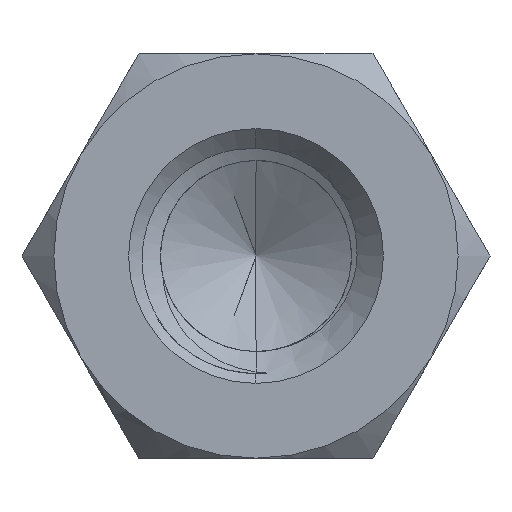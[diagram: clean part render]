
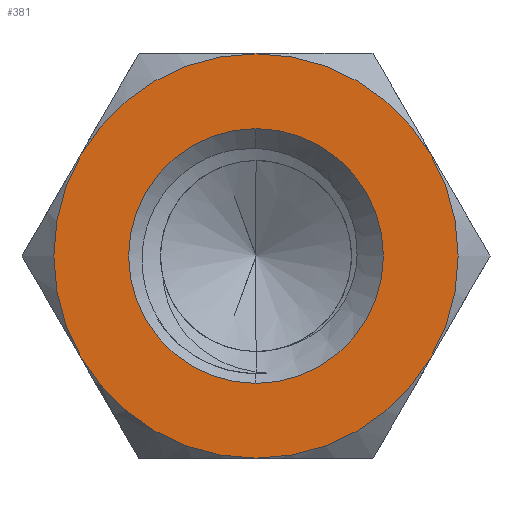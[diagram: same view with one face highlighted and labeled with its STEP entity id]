
A CAD part, front view. The second image highlights one B-rep face of the part: STEP entity #381.
In plain terms, the highlighted planar face has unit normal (0, -1, 0).
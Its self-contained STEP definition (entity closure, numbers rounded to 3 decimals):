
#165 = CARTESIAN_POINT ( 'NONE',  ( 0., 0., -3.491 ) ) ;
#175 = EDGE_LOOP ( 'NONE', ( #465, #1107 ) ) ;
#252 = DIRECTION ( 'NONE',  ( 0., 0., -1. ) ) ;
#308 = DIRECTION ( 'NONE',  ( 0., 0., 1. ) ) ;
#381 = ADVANCED_FACE ( 'NONE', ( #1863, #2071 ), #1674, .F. ) ;
#412 = CARTESIAN_POINT ( 'NONE',  ( 0., 0., 2.2 ) ) ;
#442 = CARTESIAN_POINT ( 'NONE',  ( 0., 0., 0. ) ) ;
#465 = ORIENTED_EDGE ( 'NONE', *, *, #1612, .T. ) ;
#474 = CIRCLE ( 'NONE', #1142, 3.491 ) ;
#507 = VERTEX_POINT ( 'NONE', #591 ) ;
#536 = DIRECTION ( 'NONE',  ( 0., 1., 0. ) ) ;
#581 = VERTEX_POINT ( 'NONE', #659 ) ;
#589 = AXIS2_PLACEMENT_3D ( 'NONE', #2112, #2067, #1904 ) ;
#591 = CARTESIAN_POINT ( 'NONE',  ( 0., 0., 3.491 ) ) ;
#612 = DIRECTION ( 'NONE',  ( 0., -1., 0. ) ) ;
#659 = CARTESIAN_POINT ( 'NONE',  ( 0., 0., -2.2 ) ) ;
#665 = AXIS2_PLACEMENT_3D ( 'NONE', #1886, #536, #1296 ) ;
#746 = CIRCLE ( 'NONE', #946, 2.2 ) ;
#757 = EDGE_CURVE ( 'NONE', #581, #1140, #945, .T. ) ;
#808 = ORIENTED_EDGE ( 'NONE', *, *, #757, .T. ) ;
#945 = CIRCLE ( 'NONE', #589, 2.2 ) ;
#946 = AXIS2_PLACEMENT_3D ( 'NONE', #1064, #1459, #308 ) ;
#1064 = CARTESIAN_POINT ( 'NONE',  ( 0., 0., 0. ) ) ;
#1107 = ORIENTED_EDGE ( 'NONE', *, *, #1723, .T. ) ;
#1140 = VERTEX_POINT ( 'NONE', #412 ) ;
#1142 = AXIS2_PLACEMENT_3D ( 'NONE', #1529, #2291, #2114 ) ;
#1295 = EDGE_CURVE ( 'NONE', #1140, #581, #746, .T. ) ;
#1296 = DIRECTION ( 'NONE',  ( 0., 0., 1. ) ) ;
#1422 = ORIENTED_EDGE ( 'NONE', *, *, #1295, .T. ) ;
#1459 = DIRECTION ( 'NONE',  ( 0., 1., 0. ) ) ;
#1474 = CIRCLE ( 'NONE', #1586, 3.491 ) ;
#1529 = CARTESIAN_POINT ( 'NONE',  ( 0., 0., 0. ) ) ;
#1586 = AXIS2_PLACEMENT_3D ( 'NONE', #442, #612, #252 ) ;
#1612 = EDGE_CURVE ( 'NONE', #507, #2232, #1474, .T. ) ;
#1662 = EDGE_LOOP ( 'NONE', ( #808, #1422 ) ) ;
#1674 = PLANE ( 'NONE',  #665 ) ;
#1723 = EDGE_CURVE ( 'NONE', #2232, #507, #474, .T. ) ;
#1863 = FACE_BOUND ( 'NONE', #1662, .T. ) ;
#1886 = CARTESIAN_POINT ( 'NONE',  ( 0., 0., 0. ) ) ;
#1904 = DIRECTION ( 'NONE',  ( 0., 0., 1. ) ) ;
#2067 = DIRECTION ( 'NONE',  ( 0., 1., 0. ) ) ;
#2071 = FACE_OUTER_BOUND ( 'NONE', #175, .T. ) ;
#2112 = CARTESIAN_POINT ( 'NONE',  ( 0., 0., 0. ) ) ;
#2114 = DIRECTION ( 'NONE',  ( 0., 0., -1. ) ) ;
#2232 = VERTEX_POINT ( 'NONE', #165 ) ;
#2291 = DIRECTION ( 'NONE',  ( 0., -1., 0. ) ) ;
